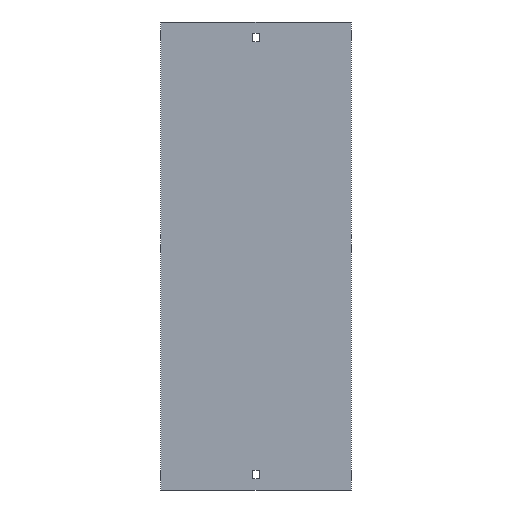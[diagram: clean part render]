
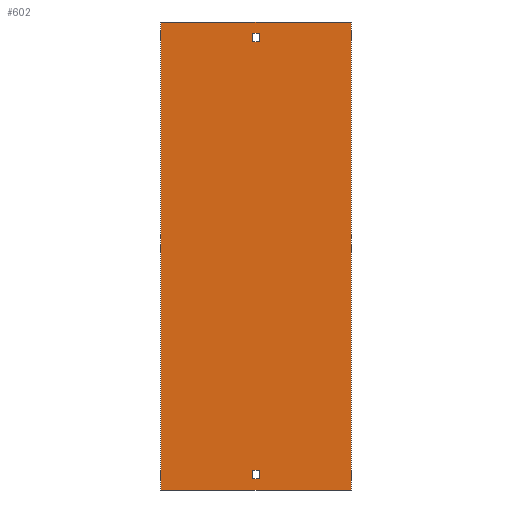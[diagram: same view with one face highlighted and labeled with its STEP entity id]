
A CAD part, front view. The second image highlights one B-rep face of the part: STEP entity #602.
In plain terms, the highlighted planar face has unit normal (0, -1, 0).
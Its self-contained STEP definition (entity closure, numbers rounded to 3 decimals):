
#19 = CARTESIAN_POINT ( 'NONE',  ( -3.25, 0., 238. ) ) ;
#23 = DIRECTION ( 'NONE',  ( 0., 0., -1. ) ) ;
#35 = VECTOR ( 'NONE', #1314, 1000. ) ;
#56 = CARTESIAN_POINT ( 'NONE',  ( -3.25, 0., -238. ) ) ;
#71 = LINE ( 'NONE', #969, #1626 ) ;
#76 = DIRECTION ( 'NONE',  ( 1., 0., 0. ) ) ;
#101 = DIRECTION ( 'NONE',  ( -1., 0., 0. ) ) ;
#109 = ORIENTED_EDGE ( 'NONE', *, *, #126, .T. ) ;
#126 = EDGE_CURVE ( 'NONE', #152, #449, #1526, .T. ) ;
#152 = VERTEX_POINT ( 'NONE', #639 ) ;
#157 = LINE ( 'NONE', #1009, #246 ) ;
#160 = CARTESIAN_POINT ( 'NONE',  ( 102., 0., -250. ) ) ;
#161 = CARTESIAN_POINT ( 'NONE',  ( -3.25, 0., 238. ) ) ;
#172 = VECTOR ( 'NONE', #547, 1000. ) ;
#174 = EDGE_LOOP ( 'NONE', ( #228, #1349, #109, #745 ) ) ;
#177 = VERTEX_POINT ( 'NONE', #160 ) ;
#188 = LINE ( 'NONE', #416, #35 ) ;
#199 = EDGE_CURVE ( 'NONE', #1103, #177, #555, .T. ) ;
#205 = LINE ( 'NONE', #699, #1241 ) ;
#215 = EDGE_CURVE ( 'NONE', #528, #1103, #1047, .T. ) ;
#228 = ORIENTED_EDGE ( 'NONE', *, *, #360, .T. ) ;
#238 = CARTESIAN_POINT ( 'NONE',  ( 3.25, 0., -238. ) ) ;
#246 = VECTOR ( 'NONE', #1432, 1000. ) ;
#248 = CARTESIAN_POINT ( 'NONE',  ( 3.25, 0., 238. ) ) ;
#269 = CARTESIAN_POINT ( 'NONE',  ( 102., 0., 250. ) ) ;
#360 = EDGE_CURVE ( 'NONE', #904, #519, #1627, .T. ) ;
#372 = CARTESIAN_POINT ( 'NONE',  ( 3.25, 0., -238. ) ) ;
#379 = VERTEX_POINT ( 'NONE', #470 ) ;
#408 = VECTOR ( 'NONE', #854, 1000. ) ;
#409 = ORIENTED_EDGE ( 'NONE', *, *, #1505, .T. ) ;
#416 = CARTESIAN_POINT ( 'NONE',  ( -3.25, 0., -229. ) ) ;
#417 = EDGE_LOOP ( 'NONE', ( #1560, #1562, #785, #1368 ) ) ;
#449 = VERTEX_POINT ( 'NONE', #372 ) ;
#470 = CARTESIAN_POINT ( 'NONE',  ( -3.25, 0., 229. ) ) ;
#477 = DIRECTION ( 'NONE',  ( 1., 0., 0. ) ) ;
#512 = FACE_OUTER_BOUND ( 'NONE', #1564, .T. ) ;
#519 = VERTEX_POINT ( 'NONE', #1134 ) ;
#528 = VERTEX_POINT ( 'NONE', #762 ) ;
#547 = DIRECTION ( 'NONE',  ( 0., 0., -1. ) ) ;
#550 = EDGE_CURVE ( 'NONE', #741, #1486, #875, .T. ) ;
#555 = LINE ( 'NONE', #269, #1269 ) ;
#560 = LINE ( 'NONE', #1069, #408 ) ;
#562 = DIRECTION ( 'NONE',  ( 0., 0., 1. ) ) ;
#602 = ADVANCED_FACE ( 'NONE', ( #512, #859, #1554 ), #1022, .F. ) ;
#632 = DIRECTION ( 'NONE',  ( 0., 0., -1. ) ) ;
#639 = CARTESIAN_POINT ( 'NONE',  ( 3.25, 0., -229. ) ) ;
#661 = AXIS2_PLACEMENT_3D ( 'NONE', #729, #1250, #101 ) ;
#687 = VECTOR ( 'NONE', #1063, 1000. ) ;
#699 = CARTESIAN_POINT ( 'NONE',  ( -3.25, 0., -238. ) ) ;
#724 = DIRECTION ( 'NONE',  ( -1., 0., 0. ) ) ;
#729 = CARTESIAN_POINT ( 'NONE',  ( -102., 0., 250. ) ) ;
#736 = EDGE_CURVE ( 'NONE', #1486, #1334, #157, .T. ) ;
#741 = VERTEX_POINT ( 'NONE', #1179 ) ;
#743 = DIRECTION ( 'NONE',  ( 0., 0., 1. ) ) ;
#745 = ORIENTED_EDGE ( 'NONE', *, *, #844, .T. ) ;
#762 = CARTESIAN_POINT ( 'NONE',  ( -102., 0., 250. ) ) ;
#785 = ORIENTED_EDGE ( 'NONE', *, *, #736, .F. ) ;
#817 = LINE ( 'NONE', #1338, #1044 ) ;
#844 = EDGE_CURVE ( 'NONE', #449, #904, #205, .T. ) ;
#854 = DIRECTION ( 'NONE',  ( 0., 0., -1. ) ) ;
#859 = FACE_BOUND ( 'NONE', #417, .T. ) ;
#875 = LINE ( 'NONE', #248, #1474 ) ;
#898 = CARTESIAN_POINT ( 'NONE',  ( -102., 0., -250. ) ) ;
#904 = VERTEX_POINT ( 'NONE', #1495 ) ;
#969 = CARTESIAN_POINT ( 'NONE',  ( -102., 0., -250. ) ) ;
#1009 = CARTESIAN_POINT ( 'NONE',  ( -3.25, 0., 238. ) ) ;
#1022 = PLANE ( 'NONE',  #661 ) ;
#1044 = VECTOR ( 'NONE', #76, 1000. ) ;
#1047 = LINE ( 'NONE', #1435, #687 ) ;
#1063 = DIRECTION ( 'NONE',  ( 1., 0., 0. ) ) ;
#1069 = CARTESIAN_POINT ( 'NONE',  ( -102., 0., 250. ) ) ;
#1103 = VERTEX_POINT ( 'NONE', #1363 ) ;
#1134 = CARTESIAN_POINT ( 'NONE',  ( -3.25, 0., -229. ) ) ;
#1141 = EDGE_CURVE ( 'NONE', #379, #741, #817, .T. ) ;
#1148 = ORIENTED_EDGE ( 'NONE', *, *, #215, .F. ) ;
#1162 = EDGE_CURVE ( 'NONE', #528, #1587, #560, .T. ) ;
#1179 = CARTESIAN_POINT ( 'NONE',  ( 3.25, 0., 229. ) ) ;
#1212 = VECTOR ( 'NONE', #562, 1000. ) ;
#1241 = VECTOR ( 'NONE', #724, 1000. ) ;
#1250 = DIRECTION ( 'NONE',  ( 0., 1., 0. ) ) ;
#1269 = VECTOR ( 'NONE', #23, 1000. ) ;
#1304 = LINE ( 'NONE', #161, #172 ) ;
#1311 = ORIENTED_EDGE ( 'NONE', *, *, #199, .F. ) ;
#1314 = DIRECTION ( 'NONE',  ( 1., 0., 0. ) ) ;
#1334 = VERTEX_POINT ( 'NONE', #19 ) ;
#1338 = CARTESIAN_POINT ( 'NONE',  ( -3.25, 0., 229. ) ) ;
#1349 = ORIENTED_EDGE ( 'NONE', *, *, #1379, .T. ) ;
#1363 = CARTESIAN_POINT ( 'NONE',  ( 102., 0., 250. ) ) ;
#1368 = ORIENTED_EDGE ( 'NONE', *, *, #550, .F. ) ;
#1376 = EDGE_CURVE ( 'NONE', #1334, #379, #1304, .T. ) ;
#1379 = EDGE_CURVE ( 'NONE', #519, #152, #188, .T. ) ;
#1382 = CARTESIAN_POINT ( 'NONE',  ( 3.25, 0., 238. ) ) ;
#1396 = ORIENTED_EDGE ( 'NONE', *, *, #1162, .T. ) ;
#1432 = DIRECTION ( 'NONE',  ( -1., 0., 0. ) ) ;
#1435 = CARTESIAN_POINT ( 'NONE',  ( -102., 0., 250. ) ) ;
#1474 = VECTOR ( 'NONE', #743, 1000. ) ;
#1486 = VERTEX_POINT ( 'NONE', #1382 ) ;
#1495 = CARTESIAN_POINT ( 'NONE',  ( -3.25, 0., -238. ) ) ;
#1505 = EDGE_CURVE ( 'NONE', #1587, #177, #71, .T. ) ;
#1526 = LINE ( 'NONE', #238, #1563 ) ;
#1554 = FACE_BOUND ( 'NONE', #174, .T. ) ;
#1560 = ORIENTED_EDGE ( 'NONE', *, *, #1141, .F. ) ;
#1562 = ORIENTED_EDGE ( 'NONE', *, *, #1376, .F. ) ;
#1563 = VECTOR ( 'NONE', #632, 1000. ) ;
#1564 = EDGE_LOOP ( 'NONE', ( #409, #1311, #1148, #1396 ) ) ;
#1587 = VERTEX_POINT ( 'NONE', #898 ) ;
#1626 = VECTOR ( 'NONE', #477, 1000. ) ;
#1627 = LINE ( 'NONE', #56, #1212 ) ;
